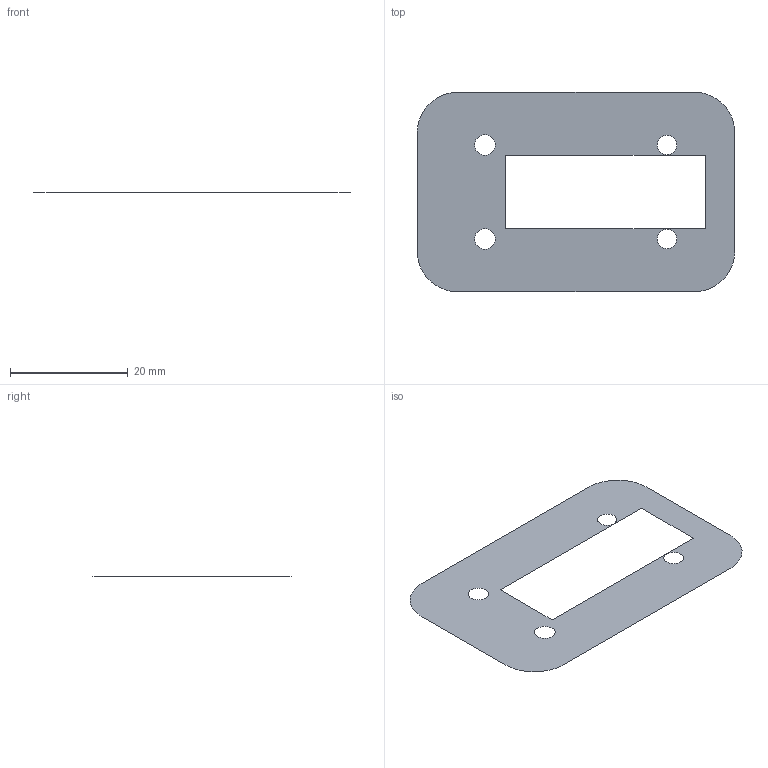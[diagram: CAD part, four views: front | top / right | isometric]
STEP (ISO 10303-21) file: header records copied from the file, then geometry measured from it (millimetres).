
FILE_DESCRIPTION(/* description */ ('STEP AP242 Edition 2','CAx-IF Rec.Pracs.---Representation and Presentation of Product Manufacturing Information (PMI)---4.0---2014-10-13','CAx-IF Rec.Pracs.---3D Tessellated Geometry---0.4---2014-09-14','2;1','CAx-IF Rec.Pracs.---User Defined Attributes---1.5---2016-08-15'),/* implementation_level */ '2;1');
FILE_NAME(/* name */ 'gripper v1 parts - Surface 4',/* time_stamp */ '2026-09-28T10:11:11Z',/* author */ (''),/* organization */ (''),/* preprocessor_version */ 'ST-DEVELOPER v20',/* originating_system */ 'ONSHAPE BY PTC INC, 1.221',/* authorisation */ ' ');
FILE_SCHEMA (('AP242_MANAGED_MODEL_BASED_3D_ENGINEERING_MIM_LF { 1 0 10303 442 3 1 4 }'));
Length unit declared in the file: metre
Products named in the file (1): Surface 4
Bounding box: 54 x 34 x 0 mm (x, y, z)
Surface area: 1333.6 mm2 (no closed solid volume)
Topology: 0 solids, 1 shells, 1 faces, 16 edges, 16 vertices
Faces by surface type: plane 1
Entity records: 196 total; most frequent: CARTESIAN_POINT 58, DIRECTION 20, ORIENTED_EDGE 16, EDGE_CURVE 16, VERTEX_POINT 16, LINE 8, VECTOR 8, EDGE_LOOP 6
